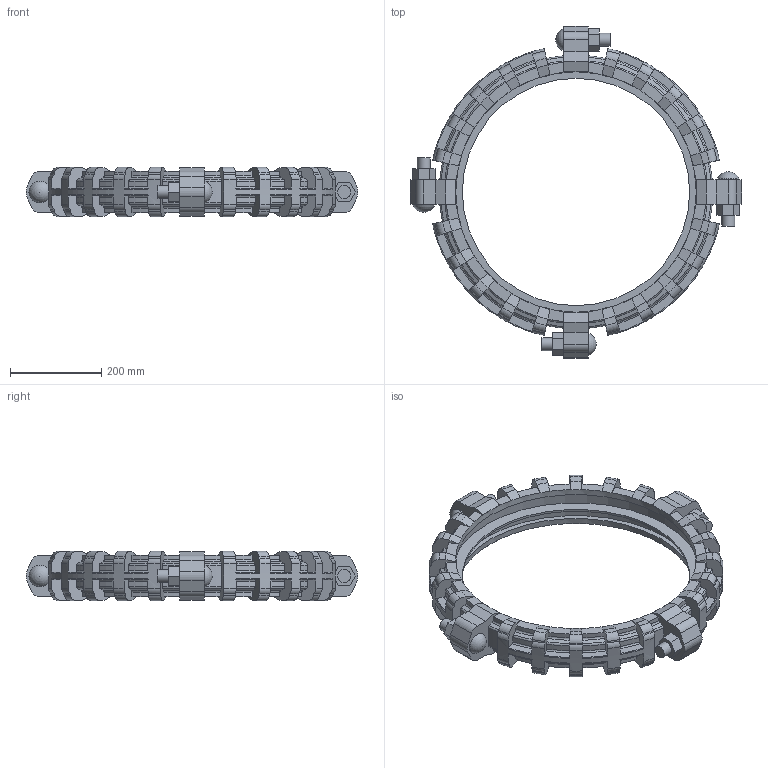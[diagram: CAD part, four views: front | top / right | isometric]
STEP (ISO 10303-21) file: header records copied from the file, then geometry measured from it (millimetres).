
FILE_DESCRIPTION(/* description */ ('VIC COUPLING STYLE 28','CAx-IF Rec.Pracs.---Representation and Presentation of Product Manufacturing Information (PMI)---4.0---2014-10-13'),/* implementation_level */ '2;1');
FILE_NAME(/* name */ 'C:\Users\kkamble\Desktop\KIRAN\2021\style 28\INVENTOR\Victaulic_Vic-Ring_Coupling Flexible_Style 28 (OGR)\Victaulic_Vic-Ring_Coupling Flexible_Style 28 (OGR)_20 (500).stp',/* time_stamp */ '2021-02-09T11:57:25+05:00',/* author */ ('jbrannon'),/* organization */ ('Victaulic'),/* preprocessor_version */ 'ST-DEVELOPER v17.2',/* originating_system */ 'Autodesk Inventor 2019',/* authorisation */ '');
FILE_SCHEMA (('AP242_MANAGED_MODEL_BASED_3D_ENGINEERING_MIM_LF { 1 0 10303 442 1 1 4 }'));
Length unit declared in the file: inch
Products named in the file (1): 28-20.0
Bounding box: 728.8 x 728.8 x 108.16 mm (x, y, z)
Volume: 7426016.4 mm3; surface area: 873171.8 mm2
Topology: 1 solids, 5 shells, 785 faces, 2235 edges, 1470 vertices
Faces by surface type: torus 280, plane 244, cylinder 129, cone 128, sphere 4
Full cylindrical faces by diameter (mm): 28.575 x8, 47.625 x4, 499.11 x1, 527.812 x2, 549.91 x2
Entity records: 27530 total; most frequent: DIRECTION 5075, CARTESIAN_POINT 5016, ORIENTED_EDGE 4462, EDGE_CURVE 2231, AXIS2_PLACEMENT_3D 2093, VERTEX_POINT 1470, CIRCLE 1294, LINE 889
